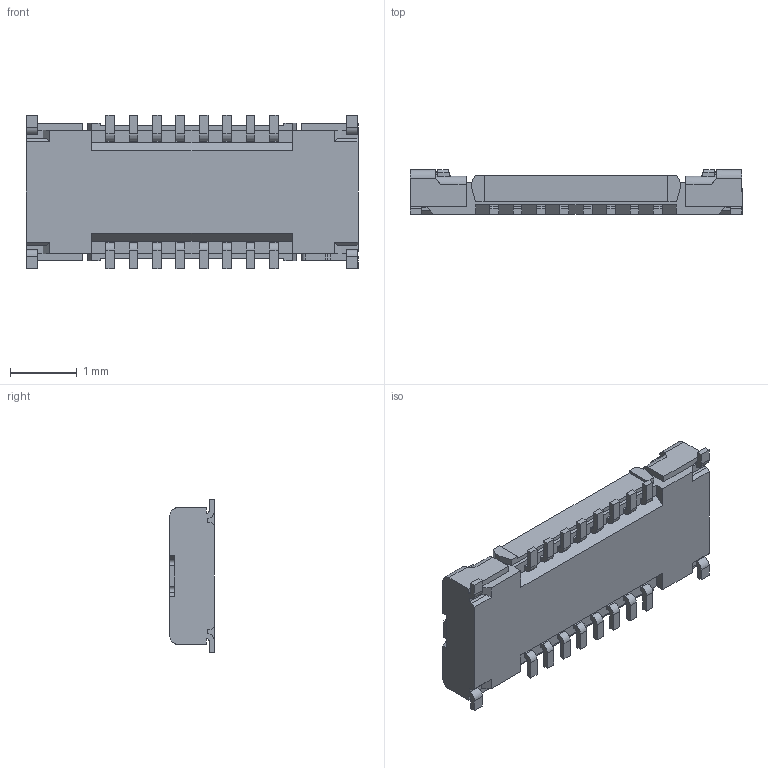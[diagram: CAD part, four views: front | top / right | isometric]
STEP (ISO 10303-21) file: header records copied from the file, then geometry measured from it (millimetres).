
FILE_DESCRIPTION (( 'STEP AP203' ), '1' );
FILE_NAME ('20709-016E-01C RECEPTACLE ASSY STEP R2 ALL.STEP', '2025-02-28T08:34:31', ( '' ), ( '' ), 'SwSTEP 2.0', 'SolidWorks 2023', '' );
FILE_SCHEMA (( 'CONFIG_CONTROL_DESIGN' ));
Length unit declared in the file: millimetre
Products named in the file (1): 20709-016E-01C RECEPTACLE ASSY STEP R2 ALL
Bounding box: 4.97 x 0.67 x 2.3 mm (x, y, z)
Volume: 4 mm3; surface area: 39.6 mm2
Topology: 1 solids, 1 shells, 416 faces, 1167 edges, 766 vertices
Faces by surface type: plane 316, cylinder 92, sphere 4, bspline 4
Entity records: 13380 total; most frequent: CARTESIAN_POINT 2582, ORIENTED_EDGE 2326, DIRECTION 2113, EDGE_CURVE 1163, VECTOR 943, LINE 943, VERTEX_POINT 766, AXIS2_PLACEMENT_3D 585
